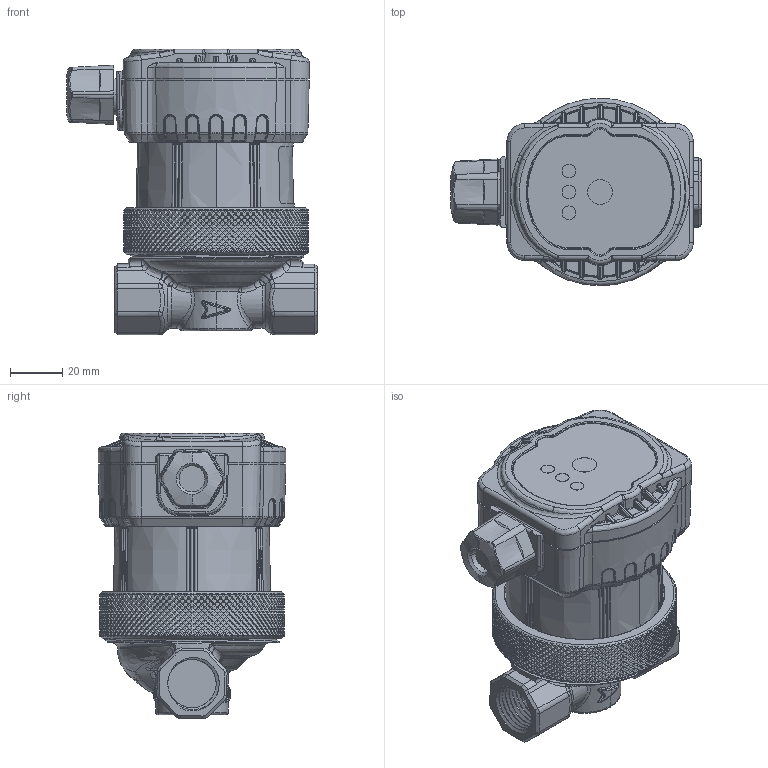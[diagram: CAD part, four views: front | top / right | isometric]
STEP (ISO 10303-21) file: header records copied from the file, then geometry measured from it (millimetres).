
FILE_DESCRIPTION (( 'STEP AP214' ), '1' );
FILE_NAME ('APW_pompa_obiegowa_cwu_1871000_0_3D_AFRISO.STEP', '2025-04-17T11:22:19', ( '' ), ( '' ), 'SwSTEP 2.0', 'SolidWorks 2024', '' );
FILE_SCHEMA (( 'AUTOMOTIVE_DESIGN' ));
Products named in the file (2): DHW_APH_1; APW_pompa_obiegowa_cwu_1871000_0_3D_AFRISO
Assembly tree (1 placements, depth 2):
  APW_pompa_obiegowa_cwu_1871000_0_3D_AFRISO
    DHW_APH_1
Bounding box: 96.41 x 72.11 x 109.64 mm (x, y, z)
Volume: 352320 mm3; surface area: 42194.6 mm2
Topology: 1 solids, 1 shells, 8468 faces, 18198 edges, 9683 vertices
Faces by surface type: bspline 6086, cylinder 1628, plane 345, torus 153, cone 148, sphere 108
Entity records: 394525 total; most frequent: CARTESIAN_POINT 258292, ORIENTED_EDGE 36264, EDGE_CURVE 18132, DIRECTION 13398, B_SPLINE_CURVE_WITH_KNOTS 13013, VERTEX_POINT 9682, EDGE_LOOP 8484, ADVANCED_FACE 8468
